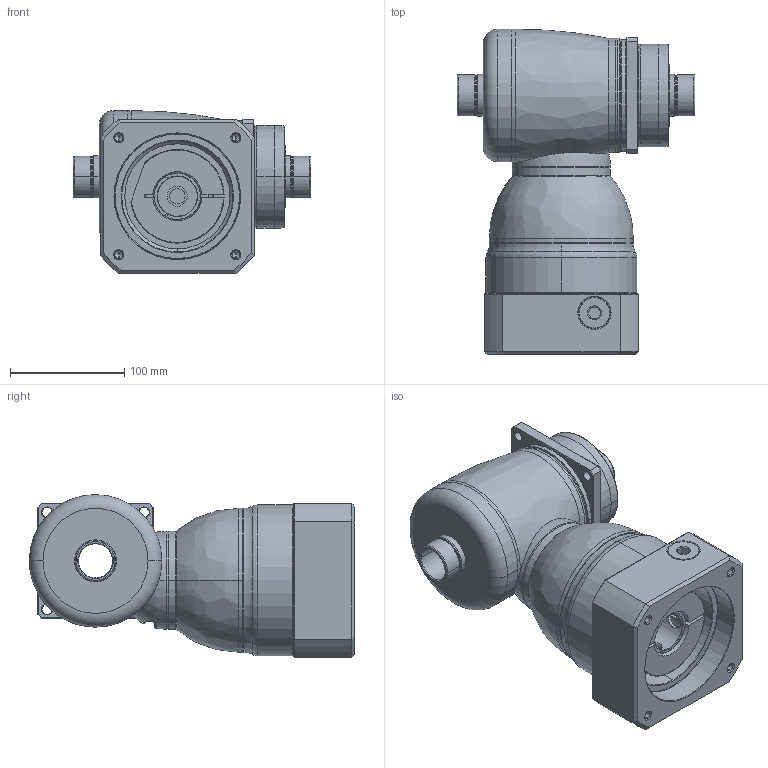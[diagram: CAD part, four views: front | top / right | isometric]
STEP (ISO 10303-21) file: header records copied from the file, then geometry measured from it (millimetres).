
FILE_DESCRIPTION((''),'2;1');
FILE_NAME('KF100_S4_1ST_35-P0409800101_ASM','2016-07-20T',('d01943'),(''),'PRO/ENGINEER BY PARAMETRIC TECHNOLOGY CORPORATION, 2008410','PRO/ENGINEER BY PARAMETRIC TECHNOLOGY CORPORATION, 2008410','');
FILE_SCHEMA(('CONFIG_CONTROL_DESIGN'));
Length unit declared in the file: millimetre
Products named in the file (11): P1008400002; P1804400001; P0914400001; P1315400001; P1007400001; P1318400401; P0409800101; P0503800012; P0912404001; 21711422019; KF100_S4_1ST_35-P0409800101_ASM
Assembly tree (10 placements, depth 2):
  KF100_S4_1ST_35-P0409800101_ASM
    P1008400002
    P1804400001
    P0914400001
    P1315400001
    P1007400001
    P1318400401
    P0409800101
    P0503800012
    P0912404001
    21711422019
Bounding box: 208.3 x 285 x 142.5 mm (x, y, z)
Volume: 2788788.3 mm3; surface area: 426645.2 mm2
Topology: 11 solids, 11 shells, 504 faces, 1116 edges, 658 vertices
Faces by surface type: cylinder 172, cone 126, plane 102, torus 66, bspline 36, sphere 2
Entity records: 19841 total; most frequent: CARTESIAN_POINT 8514, DIRECTION 2492, ORIENTED_EDGE 2196, EDGE_CURVE 1098, AXIS2_PLACEMENT_3D 1059, VERTEX_POINT 658, EDGE_LOOP 576, CIRCLE 570
